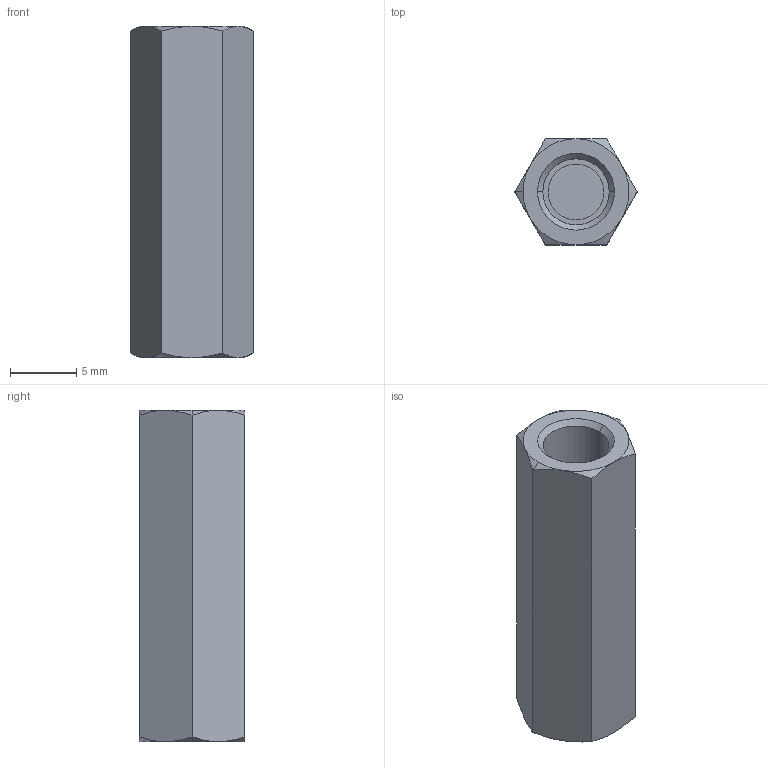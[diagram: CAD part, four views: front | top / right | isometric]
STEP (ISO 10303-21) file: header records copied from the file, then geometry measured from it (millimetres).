
FILE_DESCRIPTION (( 'STEP AP203' ), '1' );
FILE_NAME ('N0503.050-025-NP.step', '2025-02-27T14:44:36', ( '' ), ( '' ), 'SwSTEP 2.0', 'SolidWorks 2019', '' );
FILE_SCHEMA (( 'CONFIG_CONTROL_DESIGN' ));
Length unit declared in the file: millimetre
Products named in the file (1): N0503.050-025-NP
Bounding box: 9.24 x 8 x 25 mm (x, y, z)
Volume: 950.3 mm3; surface area: 1139.5 mm2
Topology: 1 solids, 1 shells, 39 faces, 82 edges, 47 vertices
Faces by surface type: cone 20, plane 11, cylinder 8
Entity records: 1153 total; most frequent: CARTESIAN_POINT 275, DIRECTION 170, ORIENTED_EDGE 160, EDGE_CURVE 80, AXIS2_PLACEMENT_3D 74, VERTEX_POINT 47, EDGE_LOOP 43, ADVANCED_FACE 39
